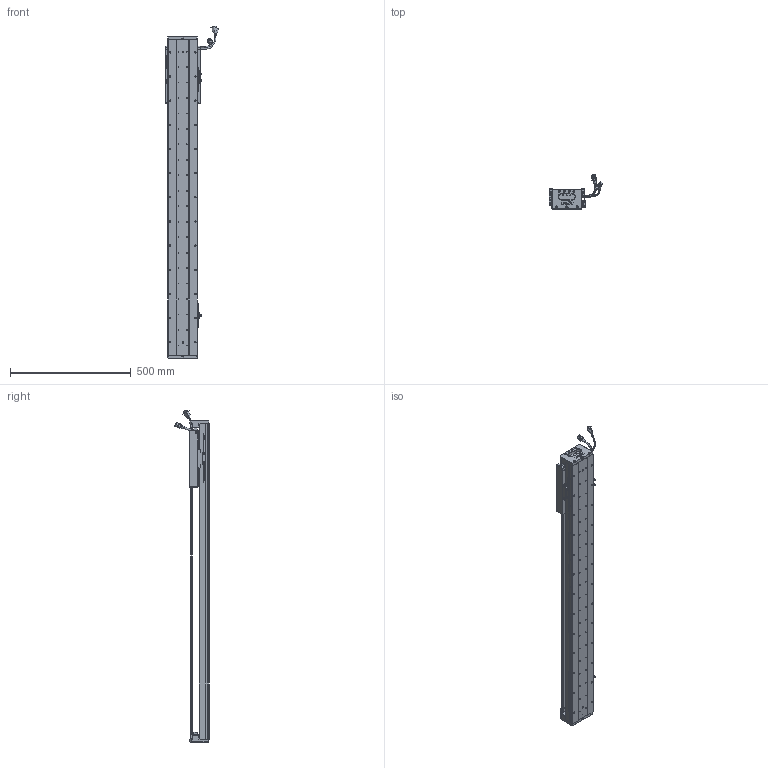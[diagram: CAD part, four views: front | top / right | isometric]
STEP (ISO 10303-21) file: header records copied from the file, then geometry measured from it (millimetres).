
FILE_DESCRIPTION (( 'STEP AP203' ), '1' );
FILE_NAME ('Z3-RY120D-1-L500-B-K.SLDASM_1000.step', '2021-05-17T05:46:52', ( '盈信电脑' ), ( '东莞市道滘镇水果街19号' ), 'SwSTEP 2.0', 'SolidWorks 2016', '' );
FILE_SCHEMA (( 'CONFIG_CONTROL_DESIGN' ));
Length unit declared in the file: millimetre
Products named in the file (37): Z3-RY120D-1-L500-B-K.SLDASM_1000; Z3-RY120-500-倰第菁釱_1000; COVER-Part-1; HARNESS; SEAL; SCREW-M1.6-3; LABEL-Part-1; Z-RY120D詩湍奻揤裔; Z3-RY120-L500詩湍100mm遵_1000; SCREW-M1.6; 140雄赽晤鎢ん堤盄; SCALE-Part-2; PBU_SHEET; Z3-RY120铝滑块（21款）; SCREW-M1.7-1; HARNESS-Part-2; 覜茼ん672; HOLDER0; SCALE-Part-1; 672嫖萇羲壽假蚾釱; Z-120詩湍傷裔啣; SHIELDPLATE; 榋妏寠巭燃_暯_M2_2; 140蚥薯蝶輸; SCALE; SCREW-M1.6-1; HARNESS-Part-1; LABEL; PSLH080_PSLF2; COVER; SCREW-M1.7; SEAL-Part-1; 080黍杅芛假蚾釱21遴; Z-RY120D詩湍狟揤裔; 120-Z-臏賑輸盄裔(21遴); SCREW-M1.6-2; RY100FB-遵嫖萇覜茼え
Assembly tree (43 placements, depth 4):
  Z3-RY120D-1-L500-B-K.SLDASM_1000
    Z3-RY120-500-倰第菁釱_1000
    覜茼ん672  x3
    672嫖萇羲壽假蚾釱  x2
    Z3-RY120铝滑块（21款）
    PSLH080_PSLF2
      SCALE
        SCALE-Part-1
        SCALE-Part-2
      HARNESS
        HARNESS-Part-1
        HARNESS-Part-2
      LABEL
        LABEL-Part-1
      COVER
        COVER-Part-1
      SEAL
        SEAL-Part-1
      榋妏寠巭燃_暯_M2_2
      SHIELDPLATE
      SCREW-M1.7
      SCREW-M1.7-1
      PBU_SHEET
      SCREW-M1.6
      SCREW-M1.6-1
      SCREW-M1.6-2
      SCREW-M1.6-3
      HOLDER0
    080黍杅芛假蚾釱21遴
    120-Z-臏賑輸盄裔(21遴)
    140雄赽晤鎢ん堤盄
    140蚥薯蝶輸  x2
    RY100FB-遵嫖萇覜茼え
    Z-120詩湍傷裔啣  x2
    Z-RY120D詩湍奻揤裔  x2
    Z-RY120D詩湍狟揤裔  x2
    Z3-RY120-L500詩湍100mm遵_1000
Bounding box: 222.88 x 140.94 x 1373.99 mm (x, y, z)
Volume: 3669521.7 mm3; surface area: 1237055.9 mm2
Topology: 38 solids, 38 shells, 2969 faces, 8117 edges, 5124 vertices
Faces by surface type: cylinder 1405, plane 1144, cone 298, torus 69, bspline 53
Entity records: 91510 total; most frequent: CARTESIAN_POINT 25279, ORIENTED_EDGE 13162, DIRECTION 12731, EDGE_CURVE 6581, AXIS2_PLACEMENT_3D 4670, VERTEX_POINT 4244, LINE 3391, VECTOR 3391
